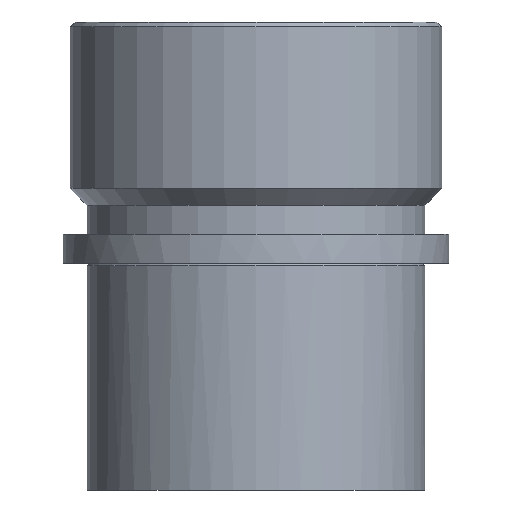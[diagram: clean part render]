
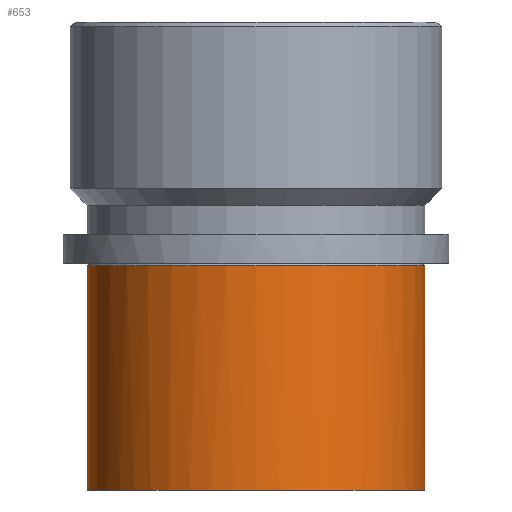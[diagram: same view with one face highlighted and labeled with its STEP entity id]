
A CAD part, front view. The second image highlights one B-rep face of the part: STEP entity #653.
In plain terms, the highlighted cylindrical face has radius 35 mm (diameter 70 mm), a partial arc.
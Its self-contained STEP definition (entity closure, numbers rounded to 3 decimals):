
#425=CARTESIAN_POINT('Control Point',(-35.,0.,-47.)) ;
#426=CARTESIAN_POINT('Control Point',(-35.,-3.188,-47.)) ;
#427=CARTESIAN_POINT('Control Point',(-34.637,-6.376,-47.)) ;
#428=CARTESIAN_POINT('Control Point',(-33.911,-9.509,-47.)) ;
#429=CARTESIAN_POINT('Control Point',(-31.758,-15.555,-47.)) ;
#430=CARTESIAN_POINT('Control Point',(-28.302,-20.962,-47.)) ;
#431=CARTESIAN_POINT('Control Point',(-26.272,-23.456,-47.)) ;
#432=CARTESIAN_POINT('Control Point',(-21.679,-27.938,-47.)) ;
#433=CARTESIAN_POINT('Control Point',(-16.197,-31.274,-47.)) ;
#434=CARTESIAN_POINT('Control Point',(-13.276,-32.621,-47.)) ;
#435=CARTESIAN_POINT('Control Point',(-7.18,-34.626,-47.)) ;
#436=CARTESIAN_POINT('Control Point',(-0.79,-35.21,-47.)) ;
#437=CARTESIAN_POINT('Control Point',(2.426,-35.135,-47.)) ;
#438=CARTESIAN_POINT('Control Point',(8.782,-34.255,-47.)) ;
#439=CARTESIAN_POINT('Control Point',(14.778,-31.968,-47.)) ;
#440=CARTESIAN_POINT('Control Point',(17.633,-30.487,-47.)) ;
#441=CARTESIAN_POINT('Control Point',(22.955,-26.9,-47.)) ;
#442=CARTESIAN_POINT('Control Point',(27.334,-22.209,-47.)) ;
#443=CARTESIAN_POINT('Control Point',(29.246,-19.623,-47.)) ;
#444=CARTESIAN_POINT('Control Point',(32.284,-14.345,-47.)) ;
#445=CARTESIAN_POINT('Control Point',(34.122,-8.548,-47.)) ;
#446=CARTESIAN_POINT('Control Point',(34.707,-5.725,-47.)) ;
#447=CARTESIAN_POINT('Control Point',(35.,-2.863,-47.)) ;
#448=CARTESIAN_POINT('Control Point',(35.,0.,-47.)) ;
#449=CARTESIAN_POINT('Vertex',(-35.,0.,-47.)) ;
#451=CARTESIAN_POINT('Vertex',(35.,0.,-47.)) ;
#623=CARTESIAN_POINT('Axis2P3D Location',(0.,0.,50.)) ;
#628=CARTESIAN_POINT('Line Origine',(35.,0.,50.)) ;
#632=CARTESIAN_POINT('Vertex',(35.,0.,-0.5)) ;
#635=CARTESIAN_POINT('Axis2P3D Location',(0.,0.,-0.5)) ;
#639=CARTESIAN_POINT('Vertex',(-35.,0.,-0.5)) ;
#642=CARTESIAN_POINT('Line Origine',(-35.,0.,50.)) ;
#624=DIRECTION('Axis2P3D Direction',(0.,0.,-1.)) ;
#625=DIRECTION('Axis2P3D XDirection',(1.,0.,0.)) ;
#629=DIRECTION('Vector Direction',(0.,0.,-1.)) ;
#636=DIRECTION('Axis2P3D Direction',(0.,0.,-1.)) ;
#643=DIRECTION('Vector Direction',(0.,0.,-1.)) ;
#626=AXIS2_PLACEMENT_3D('Cylinder Axis2P3D',#623,#624,#625) ;
#637=AXIS2_PLACEMENT_3D('Circle Axis2P3D',#635,#636,$) ;
#648=ORIENTED_EDGE('',*,*,#634,.T.) ;
#649=ORIENTED_EDGE('',*,*,#641,.F.) ;
#650=ORIENTED_EDGE('',*,*,#646,.T.) ;
#651=ORIENTED_EDGE('',*,*,#453,.T.) ;
#630=VECTOR('Line Direction',#629,1.) ;
#644=VECTOR('Line Direction',#643,1.) ;
#653=ADVANCED_FACE('741-50',(#652),#627,.T.) ;
#424=B_SPLINE_CURVE_WITH_KNOTS('',5,(#425,#426,#427,#428,#429,#430,#431,#432,#433,#434,#435,#436,#437,#438,#439,#440,#441,#442,#443,#444,#445,#446,#447,#448),.UNSPECIFIED.,.F.,.U.,(6,3,3,3,3,3,3,6),(0.,22.543,45.086,67.629,90.172,112.716,135.259,155.5),.UNSPECIFIED.) ;
#638=CIRCLE('generated circle',#637,35.) ;
#627=CYLINDRICAL_SURFACE('generated cylinder',#626,35.) ;
#453=EDGE_CURVE('',#450,#452,#424,.T.) ;
#634=EDGE_CURVE('',#452,#633,#631,.F.) ;
#641=EDGE_CURVE('',#640,#633,#638,.F.) ;
#646=EDGE_CURVE('',#640,#450,#645,.T.) ;
#647=EDGE_LOOP('',(#648,#649,#650,#651)) ;
#652=FACE_OUTER_BOUND('',#647,.T.) ;
#631=LINE('Line',#628,#630) ;
#645=LINE('Line',#642,#644) ;
#450=VERTEX_POINT('',#449) ;
#452=VERTEX_POINT('',#451) ;
#633=VERTEX_POINT('',#632) ;
#640=VERTEX_POINT('',#639) ;
